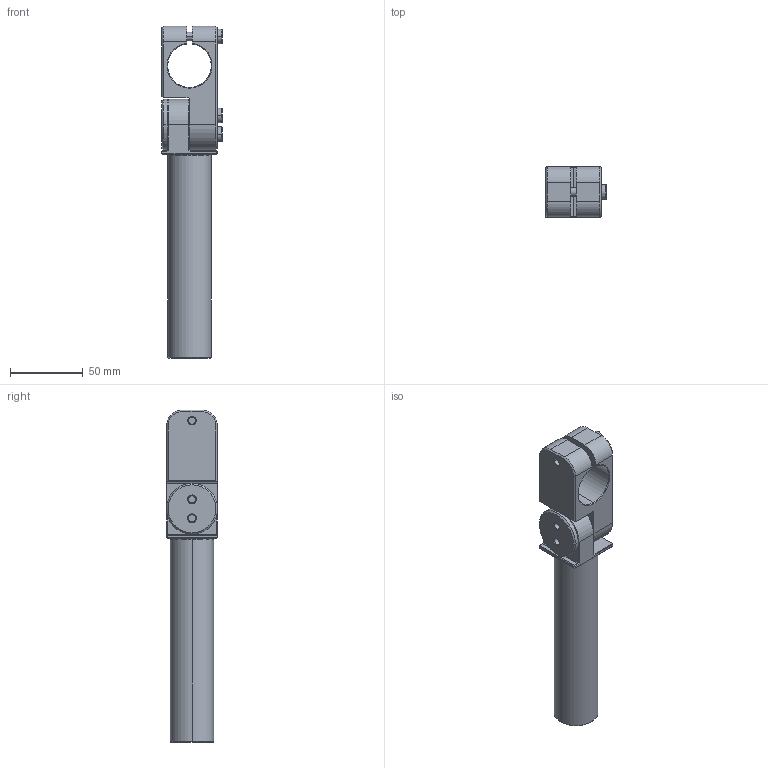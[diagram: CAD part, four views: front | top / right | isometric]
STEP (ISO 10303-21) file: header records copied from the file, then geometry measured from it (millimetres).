
FILE_DESCRIPTION (( 'STEP AP214' ), '1' );
FILE_NAME ('SEAH-3030L140T.STEP', '2023-01-30T05:01:47', ( 'Windows User' ), ( 'P R C' ), 'SwSTEP 2.0', 'SolidWorks 2019', '' );
FILE_SCHEMA (( 'AUTOMOTIVE_DESIGN' ));
Length unit declared in the file: millimetre
Products named in the file (6): PTC-M6L20; SEAH-3030L140T; SEAH-3030L140.2; SEAH-3030L140.3; SEAH-3030L140.1; PTS-M6
Assembly tree (9 placements, depth 2):
  SEAH-3030L140T
    SEAH-3030L140.1
    SEAH-3030L140.2
    SEAH-3030L140.3
    PTC-M6L20  x3
    PTS-M6  x3
Bounding box: 41.45 x 35 x 228.5 mm (x, y, z)
Volume: 133459.8 mm3; surface area: 50370.6 mm2
Topology: 9 solids, 9 shells, 701 faces, 1943 edges, 1266 vertices
Faces by surface type: plane 570, cone 68, cylinder 61, bspline 2
Entity records: 10875 total; most frequent: CARTESIAN_POINT 2118, DIRECTION 1867, ORIENTED_EDGE 1750, EDGE_CURVE 875, AXIS2_PLACEMENT_3D 657, VERTEX_POINT 558, VECTOR 553, LINE 553
